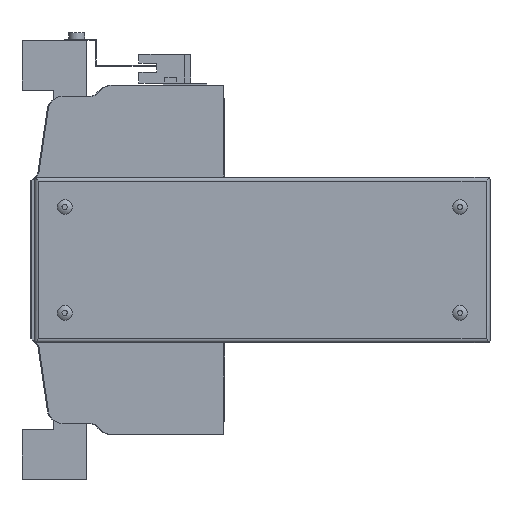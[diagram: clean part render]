
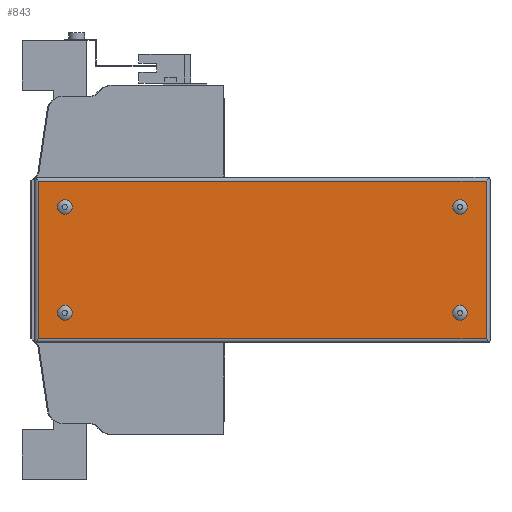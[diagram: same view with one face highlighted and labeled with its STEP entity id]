
A CAD part, left-side view. The second image highlights one B-rep face of the part: STEP entity #843.
In plain terms, the highlighted planar face has unit normal (-1, 0, 0).
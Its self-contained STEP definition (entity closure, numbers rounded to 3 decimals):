
#843 = ADVANCED_FACE( '', ( #2069, #2070, #2071, #2072, #2073 ), #2074, .F. );
#2069 = FACE_BOUND( '', #3876, .T. );
#2070 = FACE_BOUND( '', #3877, .T. );
#2071 = FACE_BOUND( '', #3878, .T. );
#2072 = FACE_BOUND( '', #3879, .T. );
#2073 = FACE_OUTER_BOUND( '', #3880, .T. );
#2074 = PLANE( '', #3881 );
#3876 = EDGE_LOOP( '', ( #6129 ) );
#3877 = EDGE_LOOP( '', ( #6130 ) );
#3878 = EDGE_LOOP( '', ( #6131 ) );
#3879 = EDGE_LOOP( '', ( #6132 ) );
#3880 = EDGE_LOOP( '', ( #6133, #6134, #6135, #6136 ) );
#3881 = AXIS2_PLACEMENT_3D( '', #6137, #6138, #6139 );
#6129 = ORIENTED_EDGE( '', *, *, #10832, .F. );
#6130 = ORIENTED_EDGE( '', *, *, #10709, .F. );
#6131 = ORIENTED_EDGE( '', *, *, #10833, .F. );
#6132 = ORIENTED_EDGE( '', *, *, #10834, .F. );
#6133 = ORIENTED_EDGE( '', *, *, #10835, .F. );
#6134 = ORIENTED_EDGE( '', *, *, #10836, .F. );
#6135 = ORIENTED_EDGE( '', *, *, #10775, .T. );
#6136 = ORIENTED_EDGE( '', *, *, #10717, .T. );
#6137 = CARTESIAN_POINT( '', ( -66., -131.95, 40.5 ) );
#6138 = DIRECTION( '', ( 1., 0., 0. ) );
#6139 = DIRECTION( '', ( 0., 0., -1. ) );
#10709 = EDGE_CURVE( '', #12883, #12883, #12884, .F. );
#10717 = EDGE_CURVE( '', #12898, #12895, #12899, .T. );
#10775 = EDGE_CURVE( '', #12995, #12898, #12996, .T. );
#10832 = EDGE_CURVE( '', #13094, #13094, #13095, .F. );
#10833 = EDGE_CURVE( '', #13096, #13096, #13097, .F. );
#10834 = EDGE_CURVE( '', #13098, #13098, #13099, .F. );
#10835 = EDGE_CURVE( '', #13100, #12895, #13101, .T. );
#10836 = EDGE_CURVE( '', #12995, #13100, #13102, .T. );
#12883 = VERTEX_POINT( '', #15963 );
#12884 = CIRCLE( '', #15964, 3.7 );
#12895 = VERTEX_POINT( '', #15979 );
#12898 = VERTEX_POINT( '', #15982 );
#12899 = LINE( '', #15983, #15984 );
#12995 = VERTEX_POINT( '', #16127 );
#12996 = LINE( '', #16128, #16129 );
#13094 = VERTEX_POINT( '', #16272 );
#13095 = CIRCLE( '', #16273, 3.7 );
#13096 = VERTEX_POINT( '', #16274 );
#13097 = CIRCLE( '', #16275, 3.7 );
#13098 = VERTEX_POINT( '', #16276 );
#13099 = CIRCLE( '', #16277, 3.7 );
#13100 = VERTEX_POINT( '', #16278 );
#13101 = LINE( '', #16279, #16280 );
#13102 = LINE( '', #16281, #16282 );
#15963 = CARTESIAN_POINT( '', ( -66., -117.95, -30.2 ) );
#15964 = AXIS2_PLACEMENT_3D( '', #19494, #19495, #19496 );
#15979 = CARTESIAN_POINT( '', ( -66., -130.95, 39.5 ) );
#15982 = CARTESIAN_POINT( '', ( -66., -130.95, -39.5 ) );
#15983 = CARTESIAN_POINT( '', ( -66., -130.95, -83. ) );
#15984 = VECTOR( '', #19504, 1000. );
#16127 = CARTESIAN_POINT( '', ( -66., 93.05, -39.5 ) );
#16128 = CARTESIAN_POINT( '', ( -66., 228., -39.5 ) );
#16129 = VECTOR( '', #19560, 1000. );
#16272 = CARTESIAN_POINT( '', ( -66., -117.95, 22.8 ) );
#16273 = AXIS2_PLACEMENT_3D( '', #19626, #19627, #19628 );
#16274 = CARTESIAN_POINT( '', ( -66., 80.05, 22.8 ) );
#16275 = AXIS2_PLACEMENT_3D( '', #19629, #19630, #19631 );
#16276 = CARTESIAN_POINT( '', ( -66., 80.05, -30.2 ) );
#16277 = AXIS2_PLACEMENT_3D( '', #19632, #19633, #19634 );
#16278 = CARTESIAN_POINT( '', ( -66., 93.05, 39.5 ) );
#16279 = CARTESIAN_POINT( '', ( -66., 228., 39.5 ) );
#16280 = VECTOR( '', #19635, 1000. );
#16281 = CARTESIAN_POINT( '', ( -66., 93.05, -83. ) );
#16282 = VECTOR( '', #19636, 1000. );
#19494 = CARTESIAN_POINT( '', ( -66., -117.95, -26.5 ) );
#19495 = DIRECTION( '', ( 1., 0., 0. ) );
#19496 = DIRECTION( '', ( 0., 0., -1. ) );
#19504 = DIRECTION( '', ( 0., 0., 1. ) );
#19560 = DIRECTION( '', ( 0., -1., 0. ) );
#19626 = CARTESIAN_POINT( '', ( -66., -117.95, 26.5 ) );
#19627 = DIRECTION( '', ( 1., 0., 0. ) );
#19628 = DIRECTION( '', ( 0., 0., -1. ) );
#19629 = CARTESIAN_POINT( '', ( -66., 80.05, 26.5 ) );
#19630 = DIRECTION( '', ( 1., 0., 0. ) );
#19631 = DIRECTION( '', ( 0., 0., -1. ) );
#19632 = CARTESIAN_POINT( '', ( -66., 80.05, -26.5 ) );
#19633 = DIRECTION( '', ( 1., 0., 0. ) );
#19634 = DIRECTION( '', ( 0., 0., -1. ) );
#19635 = DIRECTION( '', ( 0., -1., 0. ) );
#19636 = DIRECTION( '', ( 0., 0., 1. ) );
